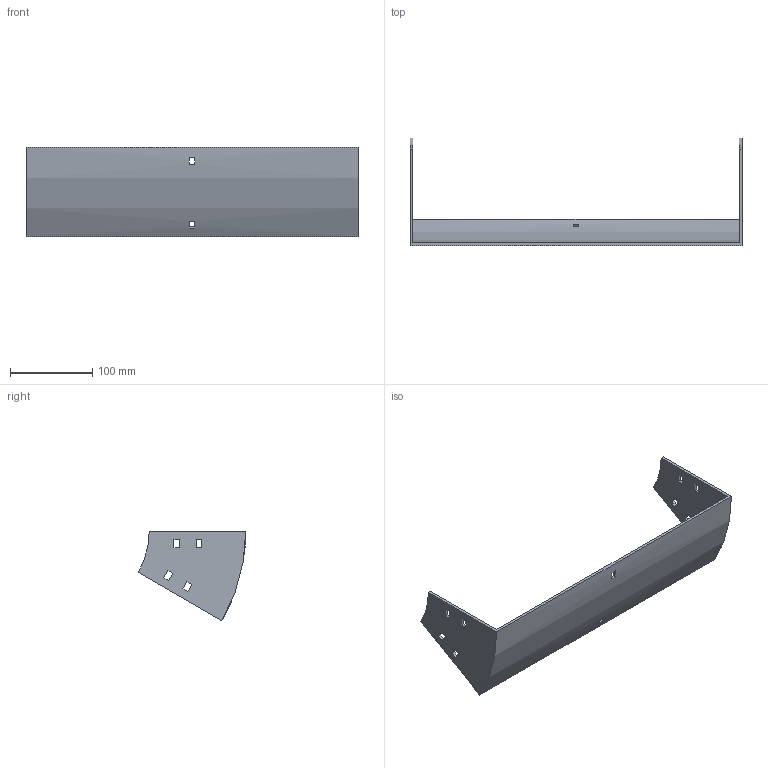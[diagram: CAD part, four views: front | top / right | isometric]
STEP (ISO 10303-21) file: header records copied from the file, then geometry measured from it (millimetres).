
FILE_DESCRIPTION (( 'STEP AP214' ), '1' );
FILE_NAME ('32B1J400.step', '2025-02-21T09:43:05', ( '' ), ( '' ), 'SwSTEP 2.0', 'SolidWorks 2023', '' );
FILE_SCHEMA (( 'AUTOMOTIVE_DESIGN' ));
Length unit declared in the file: millimetre
Products named in the file (1): 32B1J400
Bounding box: 404 x 130.9 x 108.75 mm (x, y, z)
Volume: 222963.4 mm3; surface area: 133374.3 mm2
Topology: 1 solids, 1 shells, 50 faces, 144 edges, 96 vertices
Faces by surface type: plane 46, cylinder 4
Entity records: 1687 total; most frequent: CARTESIAN_POINT 291, ORIENTED_EDGE 288, DIRECTION 262, EDGE_CURVE 144, VECTOR 128, LINE 128, VERTEX_POINT 96, EDGE_LOOP 70
